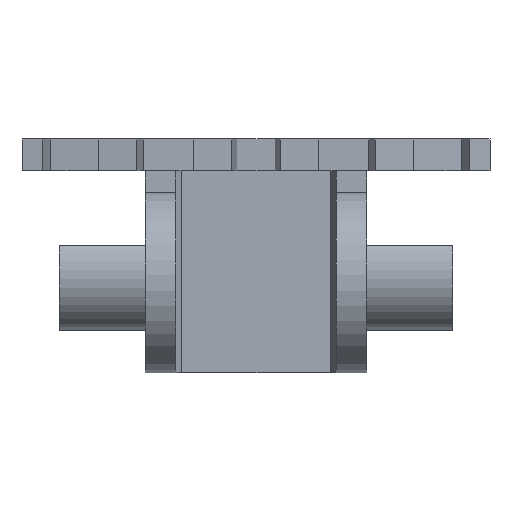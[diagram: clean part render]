
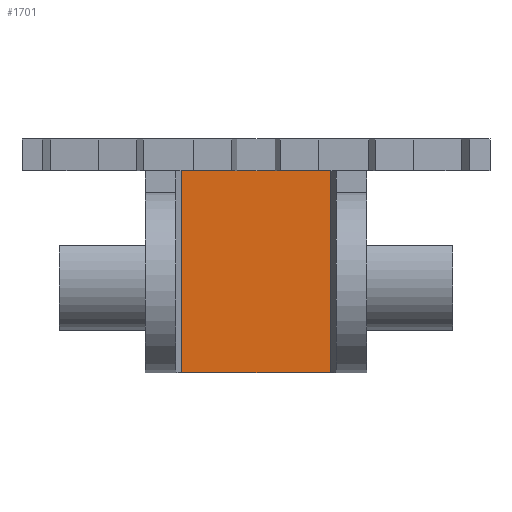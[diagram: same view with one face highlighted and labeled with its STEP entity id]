
A CAD part, left-side view. The second image highlights one B-rep face of the part: STEP entity #1701.
In plain terms, the highlighted planar face has unit normal (-1, 0, 0).
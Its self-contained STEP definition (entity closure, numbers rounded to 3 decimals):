
#146=FACE_OUTER_BOUND('',#233,.T.);
#233=EDGE_LOOP('',(#1543,#1544,#1545,#1546));
#327=LINE('',#2484,#538);
#405=LINE('',#2681,#616);
#432=LINE('',#2792,#643);
#444=LINE('',#2819,#655);
#538=VECTOR('',#2015,10.);
#616=VECTOR('',#2161,10.);
#643=VECTOR('',#2236,10.);
#655=VECTOR('',#2268,10.);
#730=VERTEX_POINT('',#2480);
#731=VERTEX_POINT('',#2482);
#784=VERTEX_POINT('',#2680);
#812=VERTEX_POINT('',#2791);
#921=EDGE_CURVE('',#730,#731,#327,.T.);
#1006=EDGE_CURVE('',#731,#784,#405,.T.);
#1046=EDGE_CURVE('',#812,#730,#432,.T.);
#1060=EDGE_CURVE('',#784,#812,#444,.T.);
#1543=ORIENTED_EDGE('',*,*,#1046,.T.);
#1544=ORIENTED_EDGE('',*,*,#921,.T.);
#1545=ORIENTED_EDGE('',*,*,#1006,.T.);
#1546=ORIENTED_EDGE('',*,*,#1060,.T.);
#1617=PLANE('',#1833);
#1701=ADVANCED_FACE('',(#146),#1617,.T.);
#1833=AXIS2_PLACEMENT_3D('',#2820,#2269,#2270);
#2015=DIRECTION('',(0.,0.,1.));
#2161=DIRECTION('',(0.,1.,0.));
#2236=DIRECTION('',(0.,-1.,0.));
#2268=DIRECTION('',(0.,0.,-1.));
#2269=DIRECTION('center_axis',(-1.,0.,0.));
#2270=DIRECTION('ref_axis',(0.,0.,1.));
#2480=CARTESIAN_POINT('',(-2.209,-7.031,14.1));
#2482=CARTESIAN_POINT('',(-2.209,-7.031,33.1));
#2484=CARTESIAN_POINT('',(-2.209,-7.031,31.1));
#2680=CARTESIAN_POINT('',(-2.209,6.969,33.1));
#2681=CARTESIAN_POINT('',(-2.209,6.969,33.1));
#2791=CARTESIAN_POINT('',(-2.209,6.969,14.1));
#2792=CARTESIAN_POINT('',(-2.209,-0.031,14.1));
#2819=CARTESIAN_POINT('',(-2.209,6.969,31.1));
#2820=CARTESIAN_POINT('Origin',(-2.209,6.969,31.1));
